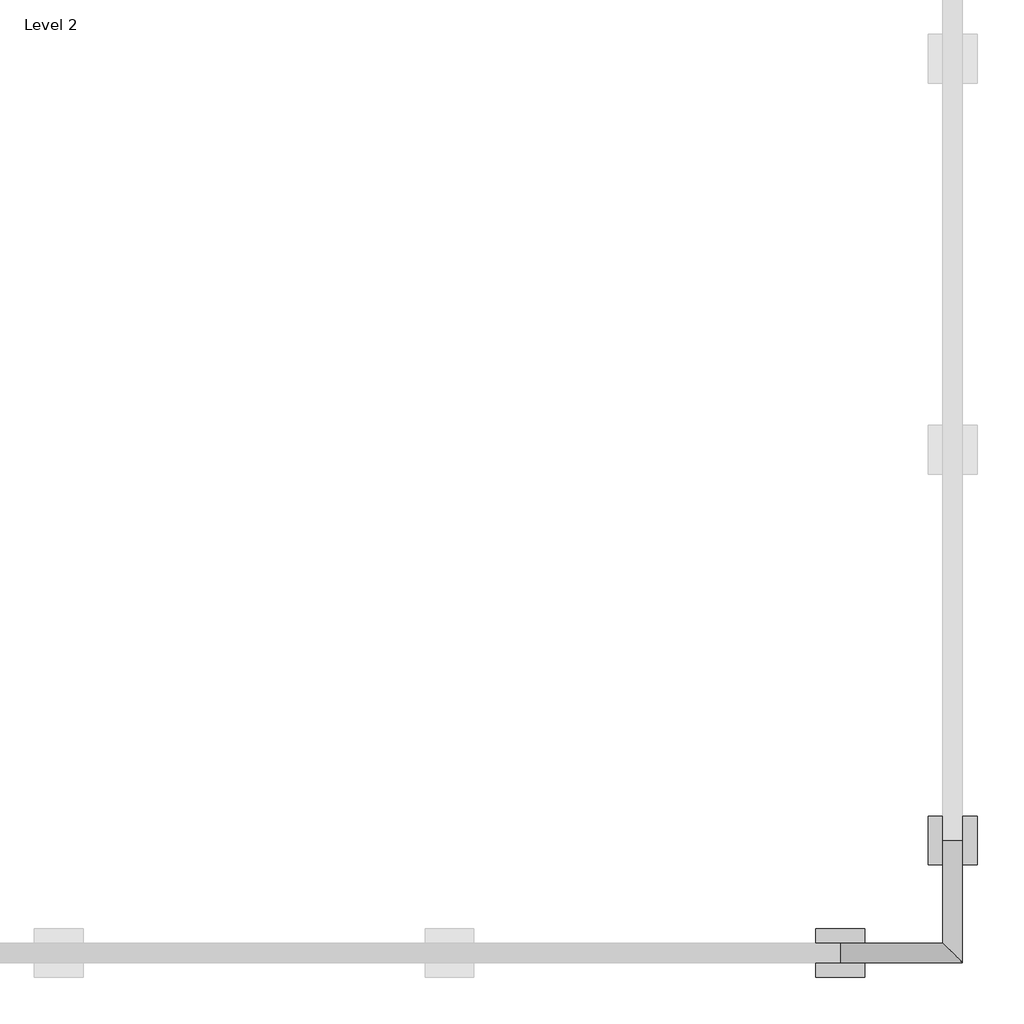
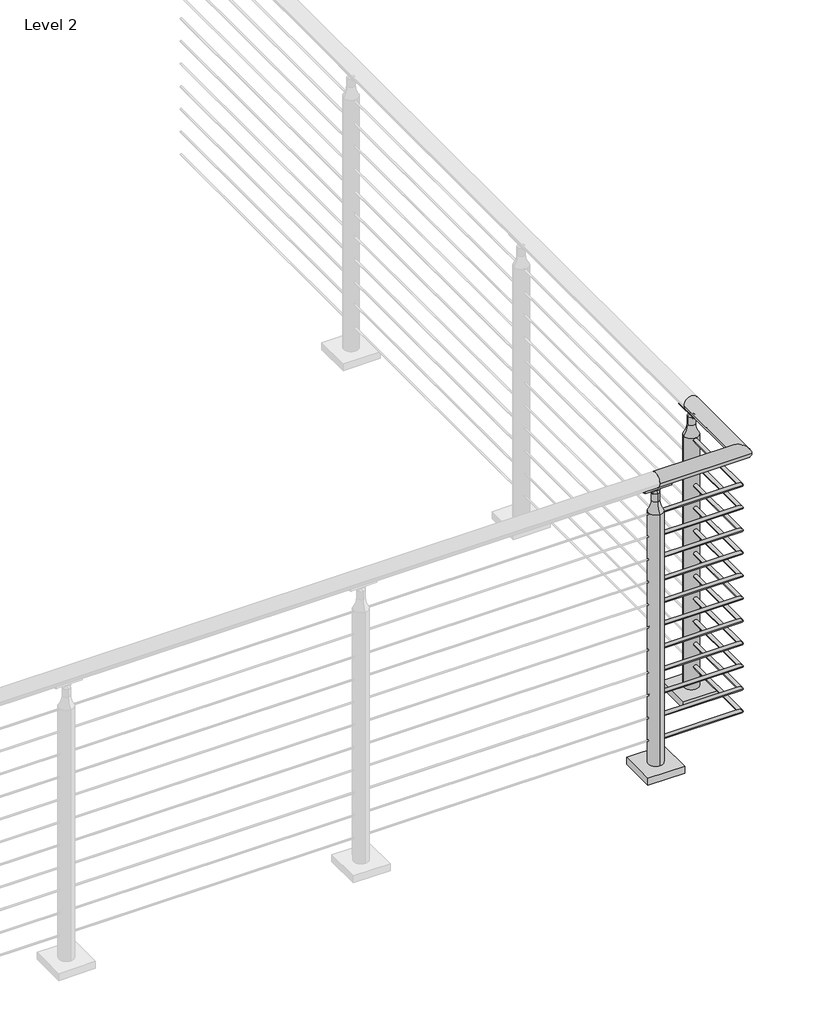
# One storey, part 12 of 21: 1 railing.
"""IFC4 building model written with IfcOpenShell, lengths in millimetres."""

from ifc_helpers import new_model, si_unit, point, frame, frame_2d, origin, place, context, project, spatial, polyline, circle_curve, ellipse_curve, trimmed, segment, composite_curve, outline, extrude, element, save
from ifc_brep_helpers import plane_surface, cylinder_surface, revolved_surface, advanced_brep

model = new_model("IFC4")

# Units and contexts
model_context = context("Model", 3, world=origin())
ifc_project = project(units=[si_unit("LENGTHUNIT", "METRE", prefix="MILLI")], contexts=[model_context])

# Site, building, storey
site = spatial("IfcSite", under=ifc_project)
building = spatial("IfcBuilding", under=site)
storey = spatial("IfcBuildingStorey", under=building, Name="Level 2", Elevation=3048.0)

# Railing
placement = place(None, origin())
element("IfcRailing", 1, ObjectType="VIVA-CIRCA-Cable-Floor Mount-Corner", at=placement, inside=storey, context=model_context, shape_type="SolidModel", body=[
    advanced_brep(
    [(20523.0072927, -52130.1426165, 4102.1), (20523.0072927, -52079.3426165, 4102.1), (20840.5072927, -52130.1426165, 4102.1), (20789.7072927, -52079.3426165, 4102.1), (20840.5072927, -51812.6426165, 4102.1), (20789.7072927, -51812.6426165, 4102.1)],
    [
        (0, 1, circle_curve(frame((20523.0072927, -52104.7426165, 4102.1), z_axis=(-1.0, 0.0, 0.0), x_axis=(0.0, 1.0, 0.0)), 25.4)),
        (1, 0, circle_curve(frame((20523.0072927, -52104.7426165, 4102.1), z_axis=(-1.0, 0.0, 0.0), x_axis=(0.0, 1.0, 0.0)), 25.4)),
        (0, 2),
        (2, 3, ellipse_curve(frame((20815.1072927, -52104.7426165, 4102.1), z_axis=(-0.7071067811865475, -0.7071067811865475, 0.0), x_axis=(-0.7071067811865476, 0.7071067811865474, 0.0)), 35.9210245, 25.4)),
        (3, 1),
        (3, 2, ellipse_curve(frame((20815.1072927, -52104.7426165, 4102.1), z_axis=(-0.7071067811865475, -0.7071067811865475, 0.0), x_axis=(-0.7071067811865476, 0.7071067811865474, 0.0)), 35.9210245, 25.4)),
        (4, 5, circle_curve(frame((20815.1072927, -51812.6426165, 4102.1), z_axis=(0.0, 1.0, 0.0), x_axis=(-1.0, 0.0, 0.0)), 25.4)),
        (5, 4, circle_curve(frame((20815.1072927, -51812.6426165, 4102.1), z_axis=(0.0, 1.0, 0.0), x_axis=(-1.0, 0.0, 0.0)), 25.4)),
        (2, 4),
        (5, 3),
    ],
    [
        plane_surface(frame((20523.0072927, -52104.7426165, 4127.5), z_axis=(-1.0, 0.0, 0.0), x_axis=(0.0, 1.0, 0.0))),
        cylinder_surface(frame((20523.0072927, -52104.7426165, 4102.1), z_axis=(-1.0, 0.0, 0.0), x_axis=(0.0, 1.0, 0.0)), 25.4),
        plane_surface(frame((20815.1072927, -51812.6426165, 4127.5), z_axis=(0.0, 1.0, 0.0), x_axis=(0.0, 0.0, 1.0))),
        cylinder_surface(frame((20815.1072927, -52104.7426165, 4102.1), z_axis=(0.0, -1.0, 0.0), x_axis=(-1.0, 0.0, 0.0)), 25.4),
    ],
    [
        (0, [[1, 2]]),
        (1, [[-1, 3, 4, 5]]),
        (1, [[-2, -5, 6, -3]]),
        (2, [[7, 8]]),
        (3, [[-4, 9, -8, 10]]),
        (3, [[-6, -10, -7, -9]]),
    ],
),
    advanced_brep(
    [(20523.0072927, -52098.3926165, 3981.45), (20523.0072927, -52111.0926165, 3981.45), (20808.7572927, -52098.3926165, 3981.45), (20821.4572927, -52111.0926165, 3981.45), (20808.7572927, -51812.6426165, 3981.45), (20821.4572927, -51812.6426165, 3981.45)],
    [
        (0, 1, circle_curve(frame((20523.0072927, -52104.7426165, 3981.45), z_axis=(-1.0, 0.0, 0.0), x_axis=(0.0, -1.0, 0.0)), 6.35)),
        (1, 0, circle_curve(frame((20523.0072927, -52104.7426165, 3981.45), z_axis=(-1.0, 0.0, 0.0), x_axis=(0.0, -1.0, 0.0)), 6.35)),
        (0, 2),
        (2, 3, ellipse_curve(frame((20815.1072927, -52104.7426165, 3981.45), z_axis=(-0.7071067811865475, -0.7071067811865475, 0.0), x_axis=(-0.7071067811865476, 0.7071067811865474, 0.0)), 8.9802561, 6.35)),
        (3, 1),
        (3, 2, ellipse_curve(frame((20815.1072927, -52104.7426165, 3981.45), z_axis=(-0.7071067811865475, -0.7071067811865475, 0.0), x_axis=(-0.7071067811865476, 0.7071067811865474, 0.0)), 8.9802561, 6.35)),
        (4, 5, circle_curve(frame((20815.1072927, -51812.6426165, 3981.45), z_axis=(0.0, 1.0, 0.0), x_axis=(1.0, 0.0, 0.0)), 6.35)),
        (5, 4, circle_curve(frame((20815.1072927, -51812.6426165, 3981.45), z_axis=(0.0, 1.0, 0.0), x_axis=(1.0, 0.0, 0.0)), 6.35)),
        (2, 4),
        (5, 3),
    ],
    [
        plane_surface(frame((20523.0072927, -52104.7426165, 3987.8), z_axis=(-1.0, 0.0, 0.0), x_axis=(0.0, 1.0, 0.0))),
        cylinder_surface(frame((20523.0072927, -52104.7426165, 3981.45), z_axis=(-1.0, 0.0, 0.0), x_axis=(0.0, -1.0, 0.0)), 6.35),
        plane_surface(frame((20815.1072927, -51812.6426165, 3987.8), z_axis=(0.0, 1.0, 0.0), x_axis=(0.0, 0.0, 1.0))),
        cylinder_surface(frame((20815.1072927, -52104.7426165, 3981.45), z_axis=(0.0, -1.0, 0.0), x_axis=(1.0, 0.0, 0.0)), 6.35),
    ],
    [
        (0, [[1, 2]]),
        (1, [[-1, 3, 4, 5]]),
        (1, [[-2, -5, 6, -3]]),
        (2, [[7, 8]]),
        (3, [[-4, 9, -8, 10]]),
        (3, [[-6, -10, -7, -9]]),
    ],
),
    advanced_brep(
    [(20523.0072927, -52098.3926165, 3898.9), (20523.0072927, -52111.0926165, 3898.9), (20808.7572927, -52098.3926165, 3898.9), (20821.4572927, -52111.0926165, 3898.9), (20808.7572927, -51812.6426165, 3898.9), (20821.4572927, -51812.6426165, 3898.9)],
    [
        (0, 1, circle_curve(frame((20523.0072927, -52104.7426165, 3898.9), z_axis=(-1.0, 0.0, 0.0), x_axis=(0.0, -1.0, 0.0)), 6.35)),
        (1, 0, circle_curve(frame((20523.0072927, -52104.7426165, 3898.9), z_axis=(-1.0, 0.0, 0.0), x_axis=(0.0, -1.0, 0.0)), 6.35)),
        (0, 2),
        (2, 3, ellipse_curve(frame((20815.1072927, -52104.7426165, 3898.9), z_axis=(-0.7071067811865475, -0.7071067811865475, 0.0), x_axis=(-0.7071067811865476, 0.7071067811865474, 0.0)), 8.9802561, 6.35)),
        (3, 1),
        (3, 2, ellipse_curve(frame((20815.1072927, -52104.7426165, 3898.9), z_axis=(-0.7071067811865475, -0.7071067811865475, 0.0), x_axis=(-0.7071067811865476, 0.7071067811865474, 0.0)), 8.9802561, 6.35)),
        (4, 5, circle_curve(frame((20815.1072927, -51812.6426165, 3898.9), z_axis=(0.0, 1.0, 0.0), x_axis=(1.0, 0.0, 0.0)), 6.35)),
        (5, 4, circle_curve(frame((20815.1072927, -51812.6426165, 3898.9), z_axis=(0.0, 1.0, 0.0), x_axis=(1.0, 0.0, 0.0)), 6.35)),
        (2, 4),
        (5, 3),
    ],
    [
        plane_surface(frame((20523.0072927, -52104.7426165, 3905.25), z_axis=(-1.0, 0.0, 0.0), x_axis=(0.0, 1.0, 0.0))),
        cylinder_surface(frame((20523.0072927, -52104.7426165, 3898.9), z_axis=(-1.0, 0.0, 0.0), x_axis=(0.0, -1.0, 0.0)), 6.35),
        plane_surface(frame((20815.1072927, -51812.6426165, 3905.25), z_axis=(0.0, 1.0, 0.0), x_axis=(0.0, 0.0, 1.0))),
        cylinder_surface(frame((20815.1072927, -52104.7426165, 3898.9), z_axis=(0.0, -1.0, 0.0), x_axis=(1.0, 0.0, 0.0)), 6.35),
    ],
    [
        (0, [[1, 2]]),
        (1, [[-1, 3, 4, 5]]),
        (1, [[-2, -5, 6, -3]]),
        (2, [[7, 8]]),
        (3, [[-4, 9, -8, 10]]),
        (3, [[-6, -10, -7, -9]]),
    ],
),
    advanced_brep(
    [(20523.0072927, -52098.3926165, 3816.35), (20523.0072927, -52111.0926165, 3816.35), (20808.7572927, -52098.3926165, 3816.35), (20821.4572927, -52111.0926165, 3816.35), (20808.7572927, -51812.6426165, 3816.35), (20821.4572927, -51812.6426165, 3816.35)],
    [
        (0, 1, circle_curve(frame((20523.0072927, -52104.7426165, 3816.35), z_axis=(-1.0, 0.0, 0.0), x_axis=(0.0, -1.0, 0.0)), 6.35)),
        (1, 0, circle_curve(frame((20523.0072927, -52104.7426165, 3816.35), z_axis=(-1.0, 0.0, 0.0), x_axis=(0.0, -1.0, 0.0)), 6.35)),
        (0, 2),
        (2, 3, ellipse_curve(frame((20815.1072927, -52104.7426165, 3816.35), z_axis=(-0.7071067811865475, -0.7071067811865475, 0.0), x_axis=(-0.7071067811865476, 0.7071067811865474, 0.0)), 8.9802561, 6.35)),
        (3, 1),
        (3, 2, ellipse_curve(frame((20815.1072927, -52104.7426165, 3816.35), z_axis=(-0.7071067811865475, -0.7071067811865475, 0.0), x_axis=(-0.7071067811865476, 0.7071067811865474, 0.0)), 8.9802561, 6.35)),
        (4, 5, circle_curve(frame((20815.1072927, -51812.6426165, 3816.35), z_axis=(0.0, 1.0, 0.0), x_axis=(1.0, 0.0, 0.0)), 6.35)),
        (5, 4, circle_curve(frame((20815.1072927, -51812.6426165, 3816.35), z_axis=(0.0, 1.0, 0.0), x_axis=(1.0, 0.0, 0.0)), 6.35)),
        (2, 4),
        (5, 3),
    ],
    [
        plane_surface(frame((20523.0072927, -52104.7426165, 3822.7), z_axis=(-1.0, 0.0, 0.0), x_axis=(0.0, 1.0, 0.0))),
        cylinder_surface(frame((20523.0072927, -52104.7426165, 3816.35), z_axis=(-1.0, 0.0, 0.0), x_axis=(0.0, -1.0, 0.0)), 6.35),
        plane_surface(frame((20815.1072927, -51812.6426165, 3822.7), z_axis=(0.0, 1.0, 0.0), x_axis=(0.0, 0.0, 1.0))),
        cylinder_surface(frame((20815.1072927, -52104.7426165, 3816.35), z_axis=(0.0, -1.0, 0.0), x_axis=(1.0, 0.0, 0.0)), 6.35),
    ],
    [
        (0, [[1, 2]]),
        (1, [[-1, 3, 4, 5]]),
        (1, [[-2, -5, 6, -3]]),
        (2, [[7, 8]]),
        (3, [[-4, 9, -8, 10]]),
        (3, [[-6, -10, -7, -9]]),
    ],
),
    advanced_brep(
    [(20523.0072927, -52098.3926165, 3733.8), (20523.0072927, -52111.0926165, 3733.8), (20808.7572927, -52098.3926165, 3733.8), (20821.4572927, -52111.0926165, 3733.8), (20808.7572927, -51812.6426165, 3733.8), (20821.4572927, -51812.6426165, 3733.8)],
    [
        (0, 1, circle_curve(frame((20523.0072927, -52104.7426165, 3733.8), z_axis=(-1.0, 0.0, 0.0), x_axis=(0.0, -1.0, 0.0)), 6.35)),
        (1, 0, circle_curve(frame((20523.0072927, -52104.7426165, 3733.8), z_axis=(-1.0, 0.0, 0.0), x_axis=(0.0, -1.0, 0.0)), 6.35)),
        (0, 2),
        (2, 3, ellipse_curve(frame((20815.1072927, -52104.7426165, 3733.8), z_axis=(-0.7071067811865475, -0.7071067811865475, 0.0), x_axis=(-0.7071067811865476, 0.7071067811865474, 0.0)), 8.9802561, 6.35)),
        (3, 1),
        (3, 2, ellipse_curve(frame((20815.1072927, -52104.7426165, 3733.8), z_axis=(-0.7071067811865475, -0.7071067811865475, 0.0), x_axis=(-0.7071067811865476, 0.7071067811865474, 0.0)), 8.9802561, 6.35)),
        (4, 5, circle_curve(frame((20815.1072927, -51812.6426165, 3733.8), z_axis=(0.0, 1.0, 0.0), x_axis=(1.0, 0.0, 0.0)), 6.35)),
        (5, 4, circle_curve(frame((20815.1072927, -51812.6426165, 3733.8), z_axis=(0.0, 1.0, 0.0), x_axis=(1.0, 0.0, 0.0)), 6.35)),
        (2, 4),
        (5, 3),
    ],
    [
        plane_surface(frame((20523.0072927, -52104.7426165, 3740.15), z_axis=(-1.0, 0.0, 0.0), x_axis=(0.0, 1.0, 0.0))),
        cylinder_surface(frame((20523.0072927, -52104.7426165, 3733.8), z_axis=(-1.0, 0.0, 0.0), x_axis=(0.0, -1.0, 0.0)), 6.35),
        plane_surface(frame((20815.1072927, -51812.6426165, 3740.15), z_axis=(0.0, 1.0, 0.0), x_axis=(0.0, 0.0, 1.0))),
        cylinder_surface(frame((20815.1072927, -52104.7426165, 3733.8), z_axis=(0.0, -1.0, 0.0), x_axis=(1.0, 0.0, 0.0)), 6.35),
    ],
    [
        (0, [[1, 2]]),
        (1, [[-1, 3, 4, 5]]),
        (1, [[-2, -5, 6, -3]]),
        (2, [[7, 8]]),
        (3, [[-4, 9, -8, 10]]),
        (3, [[-6, -10, -7, -9]]),
    ],
),
    advanced_brep(
    [(20523.0072927, -52098.3926165, 3651.25), (20523.0072927, -52111.0926165, 3651.25), (20808.7572927, -52098.3926165, 3651.25), (20821.4572927, -52111.0926165, 3651.25), (20808.7572927, -51812.6426165, 3651.25), (20821.4572927, -51812.6426165, 3651.25)],
    [
        (0, 1, circle_curve(frame((20523.0072927, -52104.7426165, 3651.25), z_axis=(-1.0, 0.0, 0.0), x_axis=(0.0, -1.0, 0.0)), 6.35)),
        (1, 0, circle_curve(frame((20523.0072927, -52104.7426165, 3651.25), z_axis=(-1.0, 0.0, 0.0), x_axis=(0.0, -1.0, 0.0)), 6.35)),
        (0, 2),
        (2, 3, ellipse_curve(frame((20815.1072927, -52104.7426165, 3651.25), z_axis=(-0.7071067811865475, -0.7071067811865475, 0.0), x_axis=(-0.7071067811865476, 0.7071067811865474, 0.0)), 8.9802561, 6.35)),
        (3, 1),
        (3, 2, ellipse_curve(frame((20815.1072927, -52104.7426165, 3651.25), z_axis=(-0.7071067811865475, -0.7071067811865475, 0.0), x_axis=(-0.7071067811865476, 0.7071067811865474, 0.0)), 8.9802561, 6.35)),
        (4, 5, circle_curve(frame((20815.1072927, -51812.6426165, 3651.25), z_axis=(0.0, 1.0, 0.0), x_axis=(1.0, 0.0, 0.0)), 6.35)),
        (5, 4, circle_curve(frame((20815.1072927, -51812.6426165, 3651.25), z_axis=(0.0, 1.0, 0.0), x_axis=(1.0, 0.0, 0.0)), 6.35)),
        (2, 4),
        (5, 3),
    ],
    [
        plane_surface(frame((20523.0072927, -52104.7426165, 3657.6), z_axis=(-1.0, 0.0, 0.0), x_axis=(0.0, 1.0, 0.0))),
        cylinder_surface(frame((20523.0072927, -52104.7426165, 3651.25), z_axis=(-1.0, 0.0, 0.0), x_axis=(0.0, -1.0, 0.0)), 6.35),
        plane_surface(frame((20815.1072927, -51812.6426165, 3657.6), z_axis=(0.0, 1.0, 0.0), x_axis=(0.0, 0.0, 1.0))),
        cylinder_surface(frame((20815.1072927, -52104.7426165, 3651.25), z_axis=(0.0, -1.0, 0.0), x_axis=(1.0, 0.0, 0.0)), 6.35),
    ],
    [
        (0, [[1, 2]]),
        (1, [[-1, 3, 4, 5]]),
        (1, [[-2, -5, 6, -3]]),
        (2, [[7, 8]]),
        (3, [[-4, 9, -8, 10]]),
        (3, [[-6, -10, -7, -9]]),
    ],
),
    advanced_brep(
    [(20523.0072927, -52098.3926165, 3568.7), (20523.0072927, -52111.0926165, 3568.7), (20808.7572927, -52098.3926165, 3568.7), (20821.4572927, -52111.0926165, 3568.7), (20808.7572927, -51812.6426165, 3568.7), (20821.4572927, -51812.6426165, 3568.7)],
    [
        (0, 1, circle_curve(frame((20523.0072927, -52104.7426165, 3568.7), z_axis=(-1.0, 0.0, 0.0), x_axis=(0.0, -1.0, 0.0)), 6.35)),
        (1, 0, circle_curve(frame((20523.0072927, -52104.7426165, 3568.7), z_axis=(-1.0, 0.0, 0.0), x_axis=(0.0, -1.0, 0.0)), 6.35)),
        (0, 2),
        (2, 3, ellipse_curve(frame((20815.1072927, -52104.7426165, 3568.7), z_axis=(-0.7071067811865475, -0.7071067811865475, 0.0), x_axis=(-0.7071067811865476, 0.7071067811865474, 0.0)), 8.9802561, 6.35)),
        (3, 1),
        (3, 2, ellipse_curve(frame((20815.1072927, -52104.7426165, 3568.7), z_axis=(-0.7071067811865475, -0.7071067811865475, 0.0), x_axis=(-0.7071067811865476, 0.7071067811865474, 0.0)), 8.9802561, 6.35)),
        (4, 5, circle_curve(frame((20815.1072927, -51812.6426165, 3568.7), z_axis=(0.0, 1.0, 0.0), x_axis=(1.0, 0.0, 0.0)), 6.35)),
        (5, 4, circle_curve(frame((20815.1072927, -51812.6426165, 3568.7), z_axis=(0.0, 1.0, 0.0), x_axis=(1.0, 0.0, 0.0)), 6.35)),
        (2, 4),
        (5, 3),
    ],
    [
        plane_surface(frame((20523.0072927, -52104.7426165, 3575.05), z_axis=(-1.0, 0.0, 0.0), x_axis=(0.0, 1.0, 0.0))),
        cylinder_surface(frame((20523.0072927, -52104.7426165, 3568.7), z_axis=(-1.0, 0.0, 0.0), x_axis=(0.0, -1.0, 0.0)), 6.35),
        plane_surface(frame((20815.1072927, -51812.6426165, 3575.05), z_axis=(0.0, 1.0, 0.0), x_axis=(0.0, 0.0, 1.0))),
        cylinder_surface(frame((20815.1072927, -52104.7426165, 3568.7), z_axis=(0.0, -1.0, 0.0), x_axis=(1.0, 0.0, 0.0)), 6.35),
    ],
    [
        (0, [[1, 2]]),
        (1, [[-1, 3, 4, 5]]),
        (1, [[-2, -5, 6, -3]]),
        (2, [[7, 8]]),
        (3, [[-4, 9, -8, 10]]),
        (3, [[-6, -10, -7, -9]]),
    ],
),
    advanced_brep(
    [(20523.0072927, -52098.3926165, 3486.15), (20523.0072927, -52111.0926165, 3486.15), (20808.7572927, -52098.3926165, 3486.15), (20821.4572927, -52111.0926165, 3486.15), (20808.7572927, -51812.6426165, 3486.15), (20821.4572927, -51812.6426165, 3486.15)],
    [
        (0, 1, circle_curve(frame((20523.0072927, -52104.7426165, 3486.15), z_axis=(-1.0, 0.0, 0.0), x_axis=(0.0, -1.0, 0.0)), 6.35)),
        (1, 0, circle_curve(frame((20523.0072927, -52104.7426165, 3486.15), z_axis=(-1.0, 0.0, 0.0), x_axis=(0.0, -1.0, 0.0)), 6.35)),
        (0, 2),
        (2, 3, ellipse_curve(frame((20815.1072927, -52104.7426165, 3486.15), z_axis=(-0.7071067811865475, -0.7071067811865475, 0.0), x_axis=(-0.7071067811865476, 0.7071067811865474, 0.0)), 8.9802561, 6.35)),
        (3, 1),
        (3, 2, ellipse_curve(frame((20815.1072927, -52104.7426165, 3486.15), z_axis=(-0.7071067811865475, -0.7071067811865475, 0.0), x_axis=(-0.7071067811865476, 0.7071067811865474, 0.0)), 8.9802561, 6.35)),
        (4, 5, circle_curve(frame((20815.1072927, -51812.6426165, 3486.15), z_axis=(0.0, 1.0, 0.0), x_axis=(1.0, 0.0, 0.0)), 6.35)),
        (5, 4, circle_curve(frame((20815.1072927, -51812.6426165, 3486.15), z_axis=(0.0, 1.0, 0.0), x_axis=(1.0, 0.0, 0.0)), 6.35)),
        (2, 4),
        (5, 3),
    ],
    [
        plane_surface(frame((20523.0072927, -52104.7426165, 3492.5), z_axis=(-1.0, 0.0, 0.0), x_axis=(0.0, 1.0, 0.0))),
        cylinder_surface(frame((20523.0072927, -52104.7426165, 3486.15), z_axis=(-1.0, 0.0, 0.0), x_axis=(0.0, -1.0, 0.0)), 6.35),
        plane_surface(frame((20815.1072927, -51812.6426165, 3492.5), z_axis=(0.0, 1.0, 0.0), x_axis=(0.0, 0.0, 1.0))),
        cylinder_surface(frame((20815.1072927, -52104.7426165, 3486.15), z_axis=(0.0, -1.0, 0.0), x_axis=(1.0, 0.0, 0.0)), 6.35),
    ],
    [
        (0, [[1, 2]]),
        (1, [[-1, 3, 4, 5]]),
        (1, [[-2, -5, 6, -3]]),
        (2, [[7, 8]]),
        (3, [[-4, 9, -8, 10]]),
        (3, [[-6, -10, -7, -9]]),
    ],
),
    advanced_brep(
    [(20523.0072927, -52098.3926165, 3403.6), (20523.0072927, -52111.0926165, 3403.6), (20808.7572927, -52098.3926165, 3403.6), (20821.4572927, -52111.0926165, 3403.6), (20808.7572927, -51812.6426165, 3403.6), (20821.4572927, -51812.6426165, 3403.6)],
    [
        (0, 1, circle_curve(frame((20523.0072927, -52104.7426165, 3403.6), z_axis=(-1.0, 0.0, 0.0), x_axis=(0.0, -1.0, 0.0)), 6.35)),
        (1, 0, circle_curve(frame((20523.0072927, -52104.7426165, 3403.6), z_axis=(-1.0, 0.0, 0.0), x_axis=(0.0, -1.0, 0.0)), 6.35)),
        (0, 2),
        (2, 3, ellipse_curve(frame((20815.1072927, -52104.7426165, 3403.6), z_axis=(-0.7071067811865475, -0.7071067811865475, 0.0), x_axis=(-0.7071067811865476, 0.7071067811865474, 0.0)), 8.9802561, 6.35)),
        (3, 1),
        (3, 2, ellipse_curve(frame((20815.1072927, -52104.7426165, 3403.6), z_axis=(-0.7071067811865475, -0.7071067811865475, 0.0), x_axis=(-0.7071067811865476, 0.7071067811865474, 0.0)), 8.9802561, 6.35)),
        (4, 5, circle_curve(frame((20815.1072927, -51812.6426165, 3403.6), z_axis=(0.0, 1.0, 0.0), x_axis=(1.0, 0.0, 0.0)), 6.35)),
        (5, 4, circle_curve(frame((20815.1072927, -51812.6426165, 3403.6), z_axis=(0.0, 1.0, 0.0), x_axis=(1.0, 0.0, 0.0)), 6.35)),
        (2, 4),
        (5, 3),
    ],
    [
        plane_surface(frame((20523.0072927, -52104.7426165, 3409.95), z_axis=(-1.0, 0.0, 0.0), x_axis=(0.0, 1.0, 0.0))),
        cylinder_surface(frame((20523.0072927, -52104.7426165, 3403.6), z_axis=(-1.0, 0.0, 0.0), x_axis=(0.0, -1.0, 0.0)), 6.35),
        plane_surface(frame((20815.1072927, -51812.6426165, 3409.95), z_axis=(0.0, 1.0, 0.0), x_axis=(0.0, 0.0, 1.0))),
        cylinder_surface(frame((20815.1072927, -52104.7426165, 3403.6), z_axis=(0.0, -1.0, 0.0), x_axis=(1.0, 0.0, 0.0)), 6.35),
    ],
    [
        (0, [[1, 2]]),
        (1, [[-1, 3, 4, 5]]),
        (1, [[-2, -5, 6, -3]]),
        (2, [[7, 8]]),
        (3, [[-4, 9, -8, 10]]),
        (3, [[-6, -10, -7, -9]]),
    ],
),
    advanced_brep(
    [(20523.0072927, -52098.3926165, 3321.05), (20523.0072927, -52111.0926165, 3321.05), (20808.7572927, -52098.3926165, 3321.05), (20821.4572927, -52111.0926165, 3321.05), (20808.7572927, -51812.6426165, 3321.05), (20821.4572927, -51812.6426165, 3321.05)],
    [
        (0, 1, circle_curve(frame((20523.0072927, -52104.7426165, 3321.05), z_axis=(-1.0, 0.0, 0.0), x_axis=(0.0, -1.0, 0.0)), 6.35)),
        (1, 0, circle_curve(frame((20523.0072927, -52104.7426165, 3321.05), z_axis=(-1.0, 0.0, 0.0), x_axis=(0.0, -1.0, 0.0)), 6.35)),
        (0, 2),
        (2, 3, ellipse_curve(frame((20815.1072927, -52104.7426165, 3321.05), z_axis=(-0.7071067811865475, -0.7071067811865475, 0.0), x_axis=(-0.7071067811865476, 0.7071067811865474, 0.0)), 8.9802561, 6.35)),
        (3, 1),
        (3, 2, ellipse_curve(frame((20815.1072927, -52104.7426165, 3321.05), z_axis=(-0.7071067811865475, -0.7071067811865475, 0.0), x_axis=(-0.7071067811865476, 0.7071067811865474, 0.0)), 8.9802561, 6.35)),
        (4, 5, circle_curve(frame((20815.1072927, -51812.6426165, 3321.05), z_axis=(0.0, 1.0, 0.0), x_axis=(1.0, 0.0, 0.0)), 6.35)),
        (5, 4, circle_curve(frame((20815.1072927, -51812.6426165, 3321.05), z_axis=(0.0, 1.0, 0.0), x_axis=(1.0, 0.0, 0.0)), 6.35)),
        (2, 4),
        (5, 3),
    ],
    [
        plane_surface(frame((20523.0072927, -52104.7426165, 3327.4), z_axis=(-1.0, 0.0, 0.0), x_axis=(0.0, 1.0, 0.0))),
        cylinder_surface(frame((20523.0072927, -52104.7426165, 3321.05), z_axis=(-1.0, 0.0, 0.0), x_axis=(0.0, -1.0, 0.0)), 6.35),
        plane_surface(frame((20815.1072927, -51812.6426165, 3327.4), z_axis=(0.0, 1.0, 0.0), x_axis=(0.0, 0.0, 1.0))),
        cylinder_surface(frame((20815.1072927, -52104.7426165, 3321.05), z_axis=(0.0, -1.0, 0.0), x_axis=(1.0, 0.0, 0.0)), 6.35),
    ],
    [
        (0, [[1, 2]]),
        (1, [[-1, 3, 4, 5]]),
        (1, [[-2, -5, 6, -3]]),
        (2, [[7, 8]]),
        (3, [[-4, 9, -8, 10]]),
        (3, [[-6, -10, -7, -9]]),
    ],
),
    advanced_brep(
    [(20523.0072927, -52098.3926165, 3238.5), (20523.0072927, -52111.0926165, 3238.5), (20808.7572927, -52098.3926165, 3238.5), (20821.4572927, -52111.0926165, 3238.5), (20808.7572927, -51812.6426165, 3238.5), (20821.4572927, -51812.6426165, 3238.5)],
    [
        (0, 1, circle_curve(frame((20523.0072927, -52104.7426165, 3238.5), z_axis=(-1.0, 0.0, 0.0), x_axis=(0.0, -1.0, 0.0)), 6.35)),
        (1, 0, circle_curve(frame((20523.0072927, -52104.7426165, 3238.5), z_axis=(-1.0, 0.0, 0.0), x_axis=(0.0, -1.0, 0.0)), 6.35)),
        (0, 2),
        (2, 3, ellipse_curve(frame((20815.1072927, -52104.7426165, 3238.5), z_axis=(-0.7071067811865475, -0.7071067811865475, 0.0), x_axis=(-0.7071067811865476, 0.7071067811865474, 0.0)), 8.9802561, 6.35)),
        (3, 1),
        (3, 2, ellipse_curve(frame((20815.1072927, -52104.7426165, 3238.5), z_axis=(-0.7071067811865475, -0.7071067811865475, 0.0), x_axis=(-0.7071067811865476, 0.7071067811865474, 0.0)), 8.9802561, 6.35)),
        (4, 5, circle_curve(frame((20815.1072927, -51812.6426165, 3238.5), z_axis=(0.0, 1.0, 0.0), x_axis=(1.0, 0.0, 0.0)), 6.35)),
        (5, 4, circle_curve(frame((20815.1072927, -51812.6426165, 3238.5), z_axis=(0.0, 1.0, 0.0), x_axis=(1.0, 0.0, 0.0)), 6.35)),
        (2, 4),
        (5, 3),
    ],
    [
        plane_surface(frame((20523.0072927, -52104.7426165, 3244.85), z_axis=(-1.0, 0.0, 0.0), x_axis=(0.0, 1.0, 0.0))),
        cylinder_surface(frame((20523.0072927, -52104.7426165, 3238.5), z_axis=(-1.0, 0.0, 0.0), x_axis=(0.0, -1.0, 0.0)), 6.35),
        plane_surface(frame((20815.1072927, -51812.6426165, 3244.85), z_axis=(0.0, 1.0, 0.0), x_axis=(0.0, 0.0, 1.0))),
        cylinder_surface(frame((20815.1072927, -52104.7426165, 3238.5), z_axis=(0.0, -1.0, 0.0), x_axis=(1.0, 0.0, 0.0)), 6.35),
    ],
    [
        (0, [[1, 2]]),
        (1, [[-1, 3, 4, 5]]),
        (1, [[-2, -5, 6, -3]]),
        (2, [[7, 8]]),
        (3, [[-4, 9, -8, 10]]),
        (3, [[-6, -10, -7, -9]]),
    ],
),
    advanced_brep(
    [(20523.0072927, -52098.3926165, 3155.95), (20523.0072927, -52111.0926165, 3155.95), (20808.7572927, -52098.3926165, 3155.95), (20821.4572927, -52111.0926165, 3155.95), (20808.7572927, -51812.6426165, 3155.95), (20821.4572927, -51812.6426165, 3155.95)],
    [
        (0, 1, circle_curve(frame((20523.0072927, -52104.7426165, 3155.95), z_axis=(-1.0, 0.0, 0.0), x_axis=(0.0, -1.0, 0.0)), 6.35)),
        (1, 0, circle_curve(frame((20523.0072927, -52104.7426165, 3155.95), z_axis=(-1.0, 0.0, 0.0), x_axis=(0.0, -1.0, 0.0)), 6.35)),
        (0, 2),
        (2, 3, ellipse_curve(frame((20815.1072927, -52104.7426165, 3155.95), z_axis=(-0.7071067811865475, -0.7071067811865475, 0.0), x_axis=(-0.7071067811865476, 0.7071067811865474, 0.0)), 8.9802561, 6.35)),
        (3, 1),
        (3, 2, ellipse_curve(frame((20815.1072927, -52104.7426165, 3155.95), z_axis=(-0.7071067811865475, -0.7071067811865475, 0.0), x_axis=(-0.7071067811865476, 0.7071067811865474, 0.0)), 8.9802561, 6.35)),
        (4, 5, circle_curve(frame((20815.1072927, -51812.6426165, 3155.95), z_axis=(0.0, 1.0, 0.0), x_axis=(1.0, 0.0, 0.0)), 6.35)),
        (5, 4, circle_curve(frame((20815.1072927, -51812.6426165, 3155.95), z_axis=(0.0, 1.0, 0.0), x_axis=(1.0, 0.0, 0.0)), 6.35)),
        (2, 4),
        (5, 3),
    ],
    [
        plane_surface(frame((20523.0072927, -52104.7426165, 3162.3), z_axis=(-1.0, 0.0, 0.0), x_axis=(0.0, 1.0, 0.0))),
        cylinder_surface(frame((20523.0072927, -52104.7426165, 3155.95), z_axis=(-1.0, 0.0, 0.0), x_axis=(0.0, -1.0, 0.0)), 6.35),
        plane_surface(frame((20815.1072927, -51812.6426165, 3162.3), z_axis=(0.0, 1.0, 0.0), x_axis=(0.0, 0.0, 1.0))),
        cylinder_surface(frame((20815.1072927, -52104.7426165, 3155.95), z_axis=(0.0, -1.0, 0.0), x_axis=(1.0, 0.0, 0.0)), 6.35),
    ],
    [
        (0, [[1, 2]]),
        (1, [[-1, 3, 4, 5]]),
        (1, [[-2, -5, 6, -3]]),
        (2, [[7, 8]]),
        (3, [[-4, 9, -8, 10]]),
        (3, [[-6, -10, -7, -9]]),
    ],
),
    extrude(outline(composite_curve([segment(trimmed(circle_curve(frame_2d((4103.4254922, 20815.0105643)), 25.4345159), [point((4081.3106679, 20827.5743672))], [point((4081.2157471, 20802.6153306))], True, "CARTESIAN"), True, "CONTINUOUS"), segment(trimmed(circle_curve(frame_2d((4078.7132623, 20801.3706774)), 2.7949225), [point((4081.2157471, 20802.6153306))], [point((4076.3406769, 20799.8933724))], False, "CARTESIAN"), True, "CONTINUOUS"), segment(trimmed(circle_curve(frame_2d((4104.1881188, 20815.1440274)), 31.75), [point((4076.3406769, 20799.8933724))], [point((4076.9214354, 20831.4102646))], False, "CARTESIAN"), True, "CONTINUOUS"), segment(trimmed(circle_curve(frame_2d((4078.7923545, 20829.1219249)), 2.9558141), [point((4076.9214354, 20831.4102646))], [point((4081.3106679, 20827.5743672))], False, "CARTESIAN"), True, "CONTINUOUS")], self_intersect=False)), frame((0.0, -51857.4831415, 0.0), z_axis=(0.0, 1.0, 0.0), x_axis=(0.0, 0.0, 1.0)), (0.0, 0.0, 1.0), 90.4748),
    advanced_brep(
    [(20812.5672927, -51785.1778267, 4072.6506908), (20812.5672927, -51799.5457415, 4058.282776), (20812.5672927, -51824.9457415, 4058.282776), (20812.5672927, -51839.3136564, 4072.6506908), (20817.6472927, -51785.1778267, 4072.6506908), (20817.6472927, -51839.3136564, 4072.6506908), (20817.6472927, -51824.9457415, 4058.282776), (20817.6472927, -51799.5457415, 4058.282776)],
    [
        (0, 1, circle_curve(frame((20812.5672927, -51785.1778267, 4058.282776), z_axis=(1.0, 0.0, 0.0), x_axis=(0.0, -1.0, 0.0)), 14.3679149)),
        (1, 2, circle_curve(frame((20812.5672927, -51812.2457415, 4058.282776), z_axis=(-1.0, 0.0, 0.0), x_axis=(0.0, -1.0, 0.0)), 12.7)),
        (2, 3, circle_curve(frame((20812.5672927, -51839.3136564, 4058.282776), z_axis=(1.0, 0.0, 0.0), x_axis=(0.0, -1.0, 0.0)), 14.3679149)),
        (3, 0),
        (4, 5),
        (5, 6, circle_curve(frame((20817.6472927, -51839.3136564, 4058.282776), z_axis=(-1.0, 0.0, 0.0), x_axis=(0.0, -1.0, 0.0)), 14.3679149)),
        (6, 7, circle_curve(frame((20817.6472927, -51812.2457415, 4058.282776), z_axis=(1.0, 0.0, 0.0), x_axis=(0.0, -1.0, 0.0)), 12.7)),
        (7, 4, circle_curve(frame((20817.6472927, -51785.1778267, 4058.282776), z_axis=(-1.0, 0.0, 0.0), x_axis=(0.0, -1.0, 0.0)), 14.3679149)),
        (0, 4),
        (7, 1),
        (6, 2),
        (5, 3),
    ],
    [
        plane_surface(frame((20812.5672927, -51799.5457415, 4058.282776), z_axis=(-1.0, 0.0, 0.0), x_axis=(0.0, 0.0, -1.0))),
        plane_surface(frame((20817.6472927, -51799.5457415, 4058.282776), z_axis=(1.0, 0.0, 0.0), x_axis=(0.0, 0.0, 1.0))),
        revolved_surface(polyline([(20817.6472927, -51799.5457416, 4058.282776), (20812.5672927, -51799.5457416, 4058.282776)]), (20817.6472927, -51785.1778267, 4058.282776), (1.0, 0.0, 0.0)),
        cylinder_surface(frame((20817.6472927, -51812.2457415, 4058.282776), z_axis=(-1.0, 0.0, 0.0), x_axis=(0.0, -1.0, 0.0)), 12.7),
        revolved_surface(polyline([(20817.6472927, -51853.6815713, 4058.282776), (20812.5672927, -51853.6815713, 4058.282776)]), (20817.6472927, -51839.3136564, 4058.282776), (1.0, 0.0, 0.0)),
        plane_surface(frame((20812.5672927, -51839.3136564, 4072.6506908), z_axis=(0.0, 0.0, 1.0), x_axis=(1.0, 0.0, 0.0))),
    ],
    [
        (0, [[1, 2, 3, 4]]),
        (1, [[5, 6, 7, 8]]),
        (2, [[-1, 9, -8, 10]]),
        (3, [[-2, -10, -7, 11]]),
        (4, [[-3, -11, -6, 12]]),
        (5, [[-4, -12, -5, -9]]),
    ],
),
    extrude(outline(polyline([(20878.6072927, -51875.7457415), (20751.6072927, -51875.7457415), (20751.6072927, -51748.7457415), (20878.6072927, -51748.7457415), (20878.6072927, -51875.7457415)])), frame((0.0, 0.0, 3048.0), z_axis=(0.0, 0.0, 1.0), x_axis=(1.0, 0.0, 0.0)), (0.0, 0.0, 1.0), 25.4),
    advanced_brep(
    [(20840.5066905, -51812.2457415, 3989.1347854), (20789.7078949, -51812.2457415, 3989.1347854), (20789.7078949, -51812.2457415, 3073.4), (20840.5066905, -51812.2457415, 3073.4), (20827.8452612, -51812.2457415, 4027.3486202), (20802.3693241, -51812.2457415, 4027.3486202), (20827.8452612, -51812.2457415, 4056.5779599), (20802.3693241, -51812.2457415, 4056.5779599), (20815.1072927, -51812.2457415, 4063.238668), (20815.1072927, -51812.2457415, 3073.4)],
    [
        (0, 1, circle_curve(frame((20815.1072927, -51812.2457415, 3989.1347854), z_axis=(0.0, 0.0, -1.0), x_axis=(-1.0, 0.0, 0.0)), 25.3993978)),
        (1, 2),
        (2, 3, circle_curve(frame((20815.1072927, -51812.2457415, 3073.4), z_axis=(0.0, 0.0, 1.0), x_axis=(-1.0, 0.0, 0.0)), 25.3993978)),
        (3, 0),
        (1, 0, circle_curve(frame((20815.1072927, -51812.2457415, 3989.1347854), z_axis=(0.0, 0.0, -1.0), x_axis=(-1.0, 0.0, 0.0)), 25.3993978)),
        (3, 2, circle_curve(frame((20815.1072927, -51812.2457415, 3073.4), z_axis=(0.0, 0.0, 1.0), x_axis=(-1.0, 0.0, 0.0)), 25.3993978)),
        (4, 5, circle_curve(frame((20815.1072927, -51812.2457415, 4027.3486202), z_axis=(0.0, 0.0, -1.0), x_axis=(-1.0, 0.0, 0.0)), 12.7379685)),
        (5, 1, circle_curve(frame((20738.3714558, -51812.2457415, 4027.3486202), z_axis=(0.0, 1.0, 0.0), x_axis=(-1.0, 0.0, 0.0)), 63.9978683)),
        (0, 4, circle_curve(frame((20891.8431295, -51812.2457415, 4027.3486202), z_axis=(0.0, 1.0, 0.0), x_axis=(1.0, 0.0, 0.0)), 63.9978683)),
        (5, 4, circle_curve(frame((20815.1072927, -51812.2457415, 4027.3486202), z_axis=(0.0, 0.0, -1.0), x_axis=(-1.0, 0.0, 0.0)), 12.7379685)),
        (6, 7, circle_curve(frame((20815.1072927, -51812.2457415, 4056.5779599), z_axis=(0.0, 0.0, -1.0), x_axis=(-1.0, 0.0, 0.0)), 12.7379685)),
        (7, 5),
        (4, 6),
        (7, 6, circle_curve(frame((20815.1072927, -51812.2457415, 4056.5779599), z_axis=(0.0, 0.0, -1.0), x_axis=(-1.0, 0.0, 0.0)), 12.7379685)),
        (8, 7, circle_curve(frame((20815.1072927, -51812.2457415, 4047.7282394), z_axis=(0.0, -1.0, 0.0), x_axis=(-1.0, 0.0, 0.0)), 15.5104286)),
        (6, 8, circle_curve(frame((20815.1072927, -51812.2457415, 4047.7282394), z_axis=(0.0, -1.0, 0.0), x_axis=(1.0, 0.0, 0.0)), 15.5104286)),
        (2, 9),
        (9, 3),
    ],
    [
        cylinder_surface(frame((20815.1072927, -51812.2457415, 4152.9), z_axis=(0.0, 0.0, 1.0), x_axis=(-1.0, 0.0, 0.0)), 25.3993978),
        revolved_surface(trimmed(ellipse_curve(frame((20738.3714558, -51812.2457415, 4027.3486202), z_axis=(0.0, -1.0, 0.0), x_axis=(-1.0, 0.0, 0.0)), 63.9978683, 63.9978683), [point((20789.7078949, -51812.2457415, 3989.1347854))], [point((20802.3693241, -51812.2457415, 4027.3486202))], True, "CARTESIAN"), (20815.1072927, -51812.2457415, 4152.9), (0.0, 0.0, 1.0)),
        cylinder_surface(frame((20815.1072927, -51812.2457415, 4152.9), z_axis=(0.0, 0.0, 1.0), x_axis=(-1.0, 0.0, 0.0)), 12.7379685),
        revolved_surface(trimmed(ellipse_curve(frame((20815.1072927, -51812.2457415, 4047.7282394), z_axis=(0.0, 1.0, 0.0), x_axis=(-1.0, 0.0, 0.0)), 15.5104286, 15.5104286), [point((20802.3693241, -51812.2457415, 4056.5779599))], [point((20815.1072927, -51812.2457415, 4063.238668))], True, "CARTESIAN"), (20815.1072927, -51812.2457415, 4152.9), (0.0, 0.0, 1.0)),
        plane_surface(frame((20815.1072927, -51812.2457415, 3073.4), z_axis=(0.0, 0.0, -1.0), x_axis=(-1.0, 0.0, 0.0))),
    ],
    [
        (0, [[1, 2, 3, 4]]),
        (0, [[5, -4, 6, -2]]),
        (1, [[7, 8, -1, 9]]),
        (1, [[10, -9, -5, -8]]),
        (2, [[11, 12, -7, 13]]),
        (2, [[14, -13, -10, -12]]),
        (3, [[15, -11, 16]]),
        (3, [[-16, -14, -15]]),
        (4, [[-3, 17, 18]]),
        (4, [[-6, -18, -17]]),
    ],
),
    extrude(outline(composite_curve([segment(trimmed(circle_curve(frame_2d((-52104.6458882, 4103.4254922)), 25.4345159), [point((-52117.2096911, 4081.3106679))], [point((-52092.2506544, 4081.2157471))], True, "CARTESIAN"), True, "CONTINUOUS"), segment(trimmed(circle_curve(frame_2d((-52091.0060013, 4078.7132623)), 2.7949225), [point((-52092.2506544, 4081.2157471))], [point((-52089.5286962, 4076.3406769))], False, "CARTESIAN"), True, "CONTINUOUS"), segment(trimmed(circle_curve(frame_2d((-52104.7793513, 4104.1881188)), 31.75), [point((-52089.5286962, 4076.3406769))], [point((-52121.0455885, 4076.9214354))], False, "CARTESIAN"), True, "CONTINUOUS"), segment(trimmed(circle_curve(frame_2d((-52118.7572487, 4078.7923545)), 2.9558141), [point((-52121.0455885, 4076.9214354))], [point((-52117.2096911, 4081.3106679))], False, "CARTESIAN"), True, "CONTINUOUS")], self_intersect=False)), frame((20478.1667677, 0.0, 0.0), z_axis=(1.0, 0.0, 0.0), x_axis=(0.0, 1.0, 0.0)), (0.0, 0.0, 1.0), 90.4748),
    advanced_brep(
    [(20550.4720826, -52102.2026165, 4072.6506908), (20536.1041677, -52102.2026165, 4058.282776), (20510.7041677, -52102.2026165, 4058.282776), (20496.3362528, -52102.2026165, 4072.6506908), (20550.4720826, -52107.2826165, 4072.6506908), (20496.3362528, -52107.2826165, 4072.6506908), (20510.7041677, -52107.2826165, 4058.282776), (20536.1041677, -52107.2826165, 4058.282776)],
    [
        (0, 1, circle_curve(frame((20550.4720826, -52102.2026165, 4058.282776), z_axis=(0.0, -1.0, 0.0), x_axis=(-1.0, 0.0, 0.0)), 14.3679149)),
        (1, 2, circle_curve(frame((20523.4041677, -52102.2026165, 4058.282776), z_axis=(0.0, 1.0, 0.0), x_axis=(-1.0, 0.0, 0.0)), 12.7)),
        (2, 3, circle_curve(frame((20496.3362528, -52102.2026165, 4058.282776), z_axis=(0.0, -1.0, 0.0), x_axis=(-1.0, 0.0, 0.0)), 14.3679149)),
        (3, 0),
        (4, 5),
        (5, 6, circle_curve(frame((20496.3362528, -52107.2826165, 4058.282776), z_axis=(0.0, 1.0, 0.0), x_axis=(-1.0, 0.0, 0.0)), 14.3679149)),
        (6, 7, circle_curve(frame((20523.4041677, -52107.2826165, 4058.282776), z_axis=(0.0, -1.0, 0.0), x_axis=(-1.0, 0.0, 0.0)), 12.7)),
        (7, 4, circle_curve(frame((20550.4720826, -52107.2826165, 4058.282776), z_axis=(0.0, 1.0, 0.0), x_axis=(-1.0, 0.0, 0.0)), 14.3679149)),
        (0, 4),
        (7, 1),
        (6, 2),
        (5, 3),
    ],
    [
        plane_surface(frame((20536.1041677, -52102.2026165, 4058.282776), z_axis=(0.0, 1.0, 0.0), x_axis=(0.0, 0.0, -1.0))),
        plane_surface(frame((20536.1041677, -52107.2826165, 4058.282776), z_axis=(0.0, -1.0, 0.0), x_axis=(0.0, 0.0, 1.0))),
        revolved_surface(polyline([(20536.1041677, -52107.2826165, 4058.282776), (20536.1041677, -52102.2026165, 4058.282776)]), (20550.4720826, -52107.2826165, 4058.282776), (0.0, -1.0, 0.0)),
        cylinder_surface(frame((20523.4041677, -52107.2826165, 4058.282776), z_axis=(0.0, 1.0, 0.0), x_axis=(-1.0, 0.0, 0.0)), 12.7),
        revolved_surface(polyline([(20481.968337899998, -52107.2826165, 4058.282776), (20481.968337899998, -52102.2026165, 4058.282776)]), (20496.3362528, -52107.2826165, 4058.282776), (0.0, -1.0, 0.0)),
        plane_surface(frame((20496.3362528, -52102.2026165, 4072.6506908), z_axis=(0.0, 0.0, 1.0), x_axis=(0.0, -1.0, 0.0))),
    ],
    [
        (0, [[1, 2, 3, 4]]),
        (1, [[5, 6, 7, 8]]),
        (2, [[-1, 9, -8, 10]]),
        (3, [[-2, -10, -7, 11]]),
        (4, [[-3, -11, -6, 12]]),
        (5, [[-4, -12, -5, -9]]),
    ],
),
    extrude(outline(polyline([(20459.9041677, -52168.2426165), (20459.9041677, -52041.2426165), (20586.9041677, -52041.2426165), (20586.9041677, -52168.2426165), (20459.9041677, -52168.2426165)])), frame((0.0, 0.0, 3048.0), z_axis=(0.0, 0.0, 1.0), x_axis=(1.0, 0.0, 0.0)), (0.0, 0.0, 1.0), 25.4),
    advanced_brep(
    [(20523.4041677, -52130.1420143, 3989.1347854), (20523.4041677, -52079.3432187, 3989.1347854), (20523.4041677, -52079.3432187, 3073.4), (20523.4041677, -52130.1420143, 3073.4), (20523.4041677, -52117.4805851, 4027.3486202), (20523.4041677, -52092.004648, 4027.3486202), (20523.4041677, -52117.4805851, 4056.5779599), (20523.4041677, -52092.004648, 4056.5779599), (20523.4041677, -52104.7426165, 4063.238668), (20523.4041677, -52104.7426165, 3073.4)],
    [
        (0, 1, circle_curve(frame((20523.4041677, -52104.7426165, 3989.1347854), z_axis=(0.0, 0.0, -1.0), x_axis=(0.0, 1.0, 0.0)), 25.3993978)),
        (1, 2),
        (2, 3, circle_curve(frame((20523.4041677, -52104.7426165, 3073.4), z_axis=(0.0, 0.0, 1.0), x_axis=(0.0, 1.0, 0.0)), 25.3993978)),
        (3, 0),
        (1, 0, circle_curve(frame((20523.4041677, -52104.7426165, 3989.1347854), z_axis=(0.0, 0.0, -1.0), x_axis=(0.0, 1.0, 0.0)), 25.3993978)),
        (3, 2, circle_curve(frame((20523.4041677, -52104.7426165, 3073.4), z_axis=(0.0, 0.0, 1.0), x_axis=(0.0, 1.0, 0.0)), 25.3993978)),
        (4, 5, circle_curve(frame((20523.4041677, -52104.7426165, 4027.3486202), z_axis=(0.0, 0.0, -1.0), x_axis=(0.0, 1.0, 0.0)), 12.7379685)),
        (5, 1, circle_curve(frame((20523.4041677, -52028.0067797, 4027.3486202), z_axis=(1.0, 0.0, 0.0), x_axis=(0.0, 1.0, 0.0)), 63.9978683)),
        (0, 4, circle_curve(frame((20523.4041677, -52181.4784534, 4027.3486202), z_axis=(1.0, 0.0, 0.0), x_axis=(0.0, -1.0, 0.0)), 63.9978683)),
        (5, 4, circle_curve(frame((20523.4041677, -52104.7426165, 4027.3486202), z_axis=(0.0, 0.0, -1.0), x_axis=(0.0, 1.0, 0.0)), 12.7379685)),
        (6, 7, circle_curve(frame((20523.4041677, -52104.7426165, 4056.5779599), z_axis=(0.0, 0.0, -1.0), x_axis=(0.0, 1.0, 0.0)), 12.7379685)),
        (7, 5),
        (4, 6),
        (7, 6, circle_curve(frame((20523.4041677, -52104.7426165, 4056.5779599), z_axis=(0.0, 0.0, -1.0), x_axis=(0.0, 1.0, 0.0)), 12.7379685)),
        (8, 7, circle_curve(frame((20523.4041677, -52104.7426165, 4047.7282394), z_axis=(-1.0, 0.0, 0.0), x_axis=(0.0, 1.0, 0.0)), 15.5104286)),
        (6, 8, circle_curve(frame((20523.4041677, -52104.7426165, 4047.7282394), z_axis=(-1.0, 0.0, 0.0), x_axis=(0.0, -1.0, 0.0)), 15.5104286)),
        (2, 9),
        (9, 3),
    ],
    [
        cylinder_surface(frame((20523.4041677, -52104.7426165, 4152.9), z_axis=(0.0, 0.0, 1.0), x_axis=(0.0, 1.0, 0.0)), 25.3993978),
        revolved_surface(trimmed(ellipse_curve(frame((20523.4041677, -52028.0067797, 4027.3486202), z_axis=(-1.0, 0.0, 0.0), x_axis=(0.0, 1.0, 0.0)), 63.9978683, 63.9978683), [point((20523.4041677, -52079.3432187, 3989.1347854))], [point((20523.4041677, -52092.004648, 4027.3486202))], True, "CARTESIAN"), (20523.4041677, -52104.7426165, 4152.9), (0.0, 0.0, 1.0)),
        cylinder_surface(frame((20523.4041677, -52104.7426165, 4152.9), z_axis=(0.0, 0.0, 1.0), x_axis=(0.0, 1.0, 0.0)), 12.7379685),
        revolved_surface(trimmed(ellipse_curve(frame((20523.4041677, -52104.7426165, 4047.7282394), z_axis=(1.0, 0.0, 0.0), x_axis=(0.0, 1.0, 0.0)), 15.5104286, 15.5104286), [point((20523.4041677, -52092.004648, 4056.5779599))], [point((20523.4041677, -52104.7426165, 4063.238668))], True, "CARTESIAN"), (20523.4041677, -52104.7426165, 4152.9), (0.0, 0.0, 1.0)),
        plane_surface(frame((20523.4041677, -52104.7426165, 3073.4), z_axis=(0.0, 0.0, -1.0), x_axis=(0.0, 1.0, 0.0))),
    ],
    [
        (0, [[1, 2, 3, 4]]),
        (0, [[5, -4, 6, -2]]),
        (1, [[7, 8, -1, 9]]),
        (1, [[10, -9, -5, -8]]),
        (2, [[11, 12, -7, 13]]),
        (2, [[14, -13, -10, -12]]),
        (3, [[15, -11, 16]]),
        (3, [[-16, -14, -15]]),
        (4, [[-3, 17, 18]]),
        (4, [[-6, -18, -17]]),
    ],
),
])

save(model, "model.ifc")
